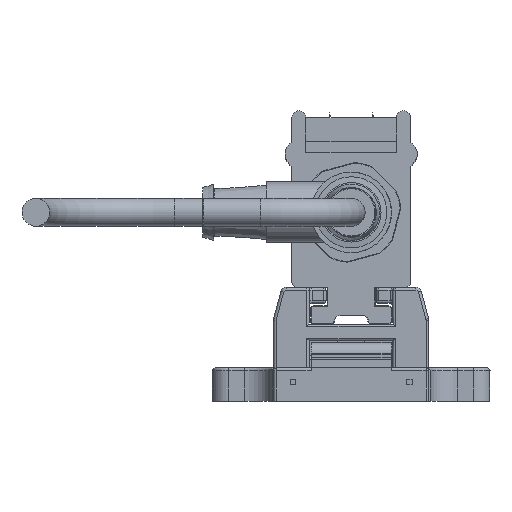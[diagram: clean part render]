
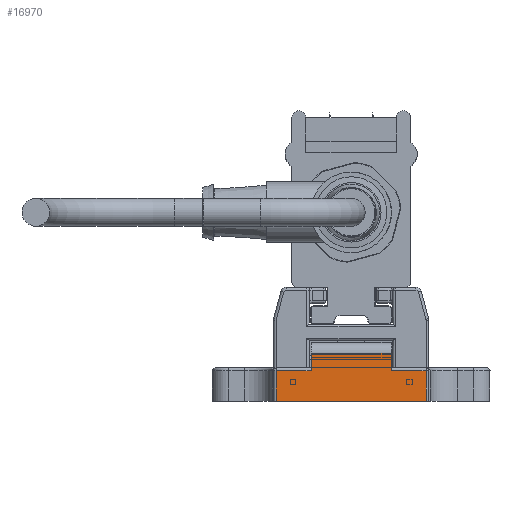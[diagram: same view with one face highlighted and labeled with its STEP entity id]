
A CAD part, left-side view. The second image highlights one B-rep face of the part: STEP entity #16970.
In plain terms, the highlighted planar face has unit normal (-1, 0, 0).
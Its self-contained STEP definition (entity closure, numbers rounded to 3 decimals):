
#16970=ADVANCED_FACE('', (#16980), #16990, .T.);
#90090=AXIS2_PLACEMENT_3D('Ax2Pl3d', #90100, #90110, #90120);
#261770=CARTESIAN_POINT('', (2084.679,-83.662,62.275)
);
#261780=CARTESIAN_POINT('', (2084.679,-56.666,62.275)
);
#261790=CARTESIAN_POINT('', (2084.679,-56.666,62.275)
);
#263770=CARTESIAN_POINT('', (2084.679,-62.964,67.775)
);
#263780=CARTESIAN_POINT('', (2084.679,-62.964,67.775)
);
#263790=CARTESIAN_POINT('', (2084.679,-62.964,70.875)
);
#263830=CARTESIAN_POINT('', (2084.679,-77.364,70.875)
);
#263840=CARTESIAN_POINT('', (2084.679,-77.364,70.875)
);
#263850=CARTESIAN_POINT('', (2084.679,-77.364,67.775)
);
#263960=CARTESIAN_POINT('', (2084.679,-62.964,67.775)
);
#263970=CARTESIAN_POINT('', (2084.679,-56.666,67.775)
);
#263980=CARTESIAN_POINT('', (2084.679,-83.662,67.775)
);
#263990=CARTESIAN_POINT('', (2084.679,-83.662,67.775)
);
#264270=CARTESIAN_POINT('', (2084.679,-83.662,67.775)
);
#90100=CARTESIAN_POINT('HicPkt', (2084.679,-62.964,
70.875));
#264280=CARTESIAN_POINT('', (2084.679,-77.364,70.875)
);
#264290=CARTESIAN_POINT('', (2084.679,-56.666,62.275)
);
#417990=DIRECTION('', (0.,1.,0.));
#418840=DIRECTION('', (0.,0.,-1.));
#418860=DIRECTION('', (0.,0.,1.));
#418910=DIRECTION('', (0.,-1.,0.));
#418920=DIRECTION('', (0.,-1.,0.));
#419060=DIRECTION('', (0.,0.,1.));
#90110=DIRECTION('Axis', (-1.,0.,
0.));
#90120=DIRECTION('RefDirection', (0.,
0.,-1.));
#419070=DIRECTION('', (0.,-1.,0.));
#419080=DIRECTION('', (0.,0.,-1.));
#456610=EDGE_CURVE('', #456600, #456620, #456630, .T.);
#459870=EDGE_CURVE('', #459880, #459860, #459890, .T.);
#459970=EDGE_CURVE('', #459980, #459960, #459990, .T.);
#460180=EDGE_CURVE('', #460190, #459860, #460200, .T.);
#460220=EDGE_CURVE('', #459980, #460230, #460240, .T.);
#460760=EDGE_CURVE('', #456600, #460230, #460770, .T.);
#460780=EDGE_CURVE('', #459880, #459960, #460790, .T.);
#460800=EDGE_CURVE('', #460190, #456620, #460810, .T.);
#546200=EDGE_LOOP('Edge_loop', (#546210,#546220,#546230,#546240,
#546250,#546260,#546270,#546280));
#16980=FACE_OUTER_BOUND('Face_outer_bound', #546200, .T.);
#456630=LINE('Line', #261780, #617780);
#459890=LINE('Line', #263780, #618630);
#459990=LINE('Line', #263840, #618650);
#460200=LINE('Line', #263960, #618700);
#460240=LINE('Line', #263980, #618710);
#460770=LINE('Line', #264270, #618850);
#460790=LINE('Line', #264280, #618860);
#460810=LINE('Line', #264290, #618870);
#546210=ORIENTED_EDGE('', *, *, #460780, .F.);
#546220=ORIENTED_EDGE('', *, *, #459870, .T.);
#546230=ORIENTED_EDGE('', *, *, #460180, .F.);
#546240=ORIENTED_EDGE('', *, *, #460800, .T.);
#546250=ORIENTED_EDGE('', *, *, #456610, .F.);
#546260=ORIENTED_EDGE('', *, *, #460760, .T.);
#546270=ORIENTED_EDGE('', *, *, #460220, .F.);
#546280=ORIENTED_EDGE('', *, *, #459970, .T.);
#16990=PLANE('Plane', #90090);
#617780=VECTOR('', #417990, 26.996);
#618630=VECTOR('', #418840, 3.1);
#618650=VECTOR('', #418860, 3.1);
#618700=VECTOR('', #418910, 6.298);
#618710=VECTOR('', #418920, 6.298);
#618850=VECTOR('', #419060, 5.5);
#618860=VECTOR('', #419070, 14.4);
#618870=VECTOR('', #419080, 5.5);
#456600=VERTEX_POINT('', #261770);
#456620=VERTEX_POINT('', #261790);
#459860=VERTEX_POINT('', #263770);
#459880=VERTEX_POINT('', #263790);
#459960=VERTEX_POINT('', #263830);
#459980=VERTEX_POINT('', #263850);
#460190=VERTEX_POINT('', #263970);
#460230=VERTEX_POINT('', #263990);
